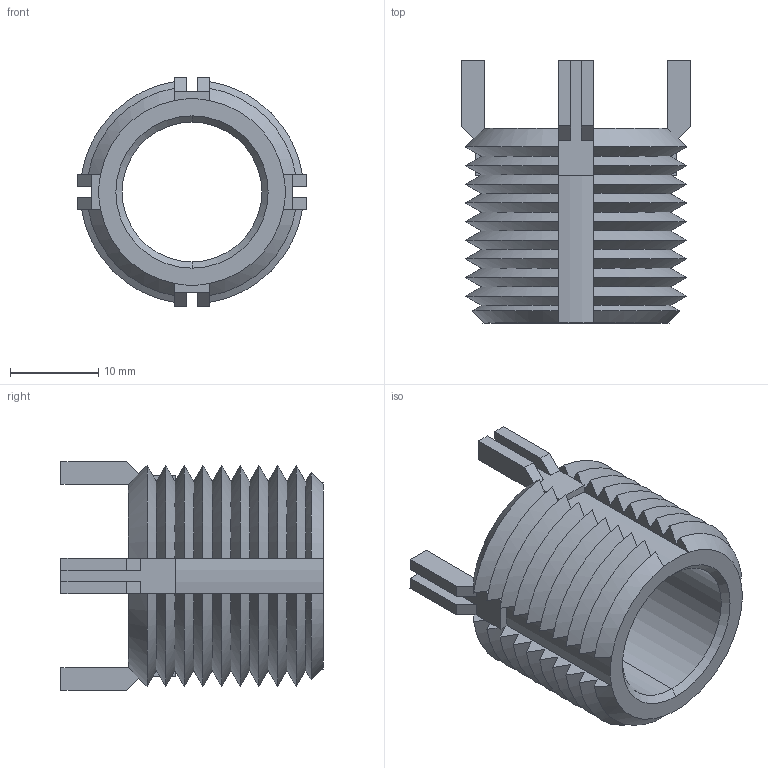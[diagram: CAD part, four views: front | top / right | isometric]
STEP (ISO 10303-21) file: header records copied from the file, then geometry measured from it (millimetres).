
FILE_DESCRIPTION (( 'STEP AP203' ), '1' );
FILE_NAME ('22024.W5401.step', '2020-01-04T21:59:00', ( '' ), ( '' ), 'SwSTEP 2.0', 'SolidWorks 2017', '' );
FILE_SCHEMA (( 'CONFIG_CONTROL_DESIGN' ));
Length unit declared in the file: millimetre
Products named in the file (1): 22024.W5401
Bounding box: 25.98 x 29.75 x 25.98 mm (x, y, z)
Volume: 5105.8 mm3; surface area: 4903.3 mm2
Topology: 1 solids, 1 shells, 180 faces, 474 edges, 296 vertices
Faces by surface type: plane 90, cone 84, cylinder 6
Entity records: 5763 total; most frequent: CARTESIAN_POINT 1575, ORIENTED_EDGE 948, DIRECTION 736, EDGE_CURVE 474, VERTEX_POINT 296, AXIS2_PLACEMENT_3D 281, B_SPLINE_CURVE_WITH_KNOTS 200, EDGE_LOOP 182
